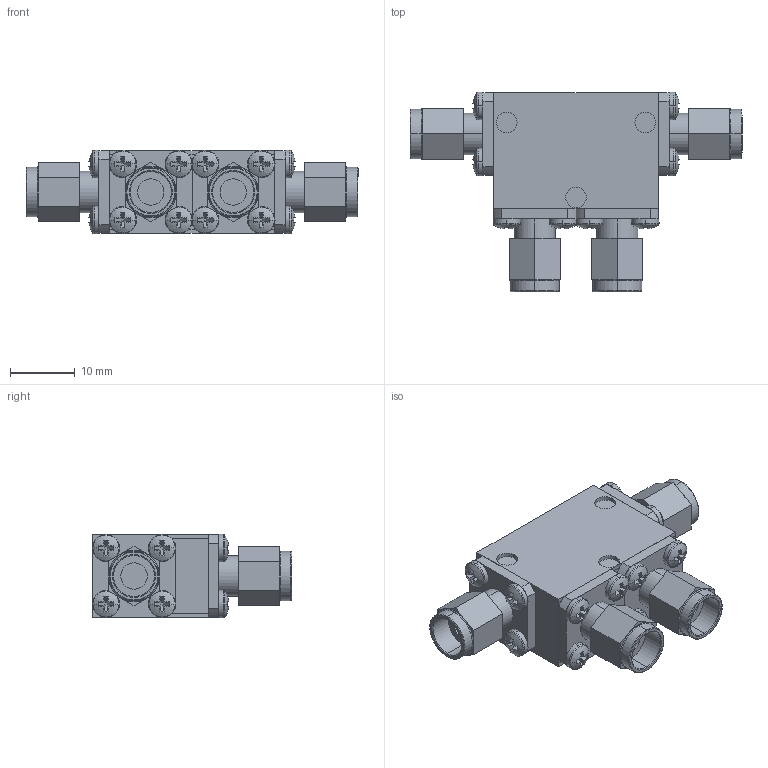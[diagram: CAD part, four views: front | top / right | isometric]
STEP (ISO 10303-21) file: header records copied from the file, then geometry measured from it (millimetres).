
FILE_DESCRIPTION (( 'STEP AP214' ), '1' );
FILE_NAME ('Package 16 Circ MMMM.step', '2021-12-01T20:58:36', ( '' ), ( '' ), 'SwSTEP 2.0', 'SolidWorks 2016', '' );
FILE_SCHEMA (( 'AUTOMOTIVE_DESIGN' ));
Length unit declared in the file: inch
Products named in the file (5): Package Size 16; pan cross head_ai_CR-PHMS 0.086-56x0.125x0.125-N; Package 16 Circ MMMM; Delta SMA-Male; Package 16
Assembly tree (22 placements, depth 2):
  Package 16 Circ MMMM
    Package 16
    pan cross head_ai_CR-PHMS 0.086-56x0.125x0.125-N  x16
    Delta SMA-Male  x4
    Package Size 16
Bounding box: 51.16 x 30.75 x 12.88 mm (x, y, z)
Volume: 8226.6 mm3; surface area: 8927.3 mm2
Topology: 22 solids, 22 shells, 584 faces, 1328 edges, 816 vertices
Faces by surface type: plane 340, cylinder 156, torus 56, sphere 32
Entity records: 3288 total; most frequent: DIRECTION 594, CARTESIAN_POINT 509, ORIENTED_EDGE 472, EDGE_CURVE 236, AXIS2_PLACEMENT_3D 235, VERTEX_POINT 150, VECTOR 124, LINE 124
